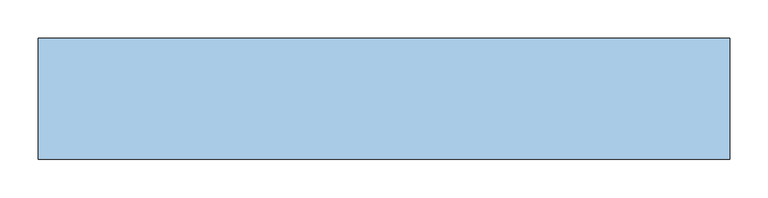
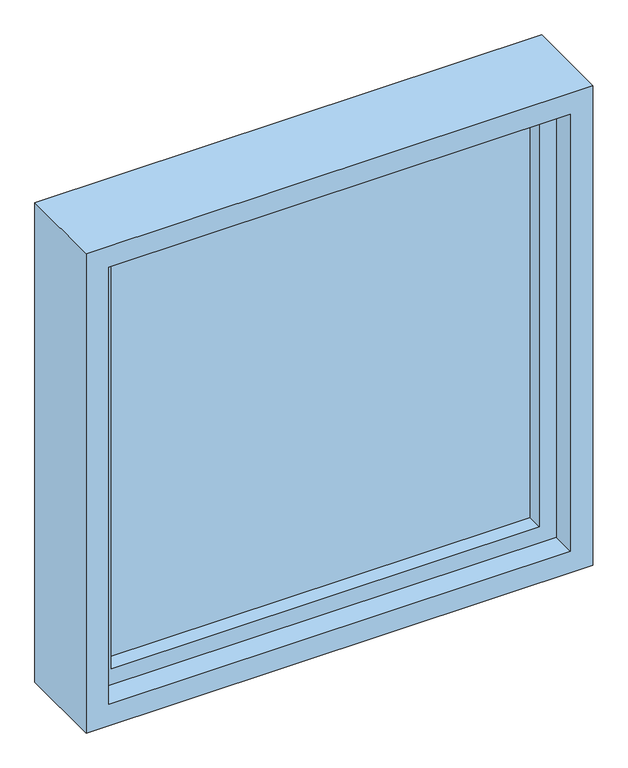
"""IFC4 building model written with IfcOpenShell, lengths in millimetres: window geometry, WD000-창 : WD000-창 900x900."""

from ifc_helpers import new_model, si_unit, frame, origin, place, context, project, spatial, polyline, outline, extrude, source, transform, mapped, element, save


def window_f2f41d25(model_context):
    return source(origin(), model_context, "Body", "SweptSolid", [
        extrude(outline(polyline([(380.0, -6.0), (-380.0, -6.0), (-380.0, 6.0), (380.0, 6.0), (380.0, -6.0)])), frame((0.0, 0.0, 870.0), z_axis=(0.0, 0.0, 1.0), x_axis=(1.0, 0.0, 0.0)), (0.0, 0.0, 1.0), 760.0),
        extrude(outline(polyline([(1660.0, 410.0), (1660.0, -410.0), (840.0, -410.0), (840.0, 410.0), (1660.0, 410.0)]), holes=[polyline([(1630.0, -380.0), (1630.0, 380.0), (870.0, 380.0), (870.0, -380.0), (1630.0, -380.0)])]), frame((0.0, -35.0, 0.0), z_axis=(0.0, 1.0, 0.0), x_axis=(0.0, 0.0, 1.0)), (0.0, 0.0, 1.0), 70.0),
        extrude(outline(polyline([(1700.0, 450.0), (1700.0, -450.0), (800.0, -450.0), (800.0, 450.0), (1700.0, 450.0)]), holes=[polyline([(1660.0, 410.0), (840.0, 410.0), (840.0, -410.0), (1660.0, -410.0), (1660.0, 410.0)])]), frame((0.0, -78.6430223, 0.0), z_axis=(0.0, 1.0, 0.0), x_axis=(0.0, 0.0, 1.0)), (0.0, 0.0, 1.0), 157.2860446),
    ])


if __name__ == "__main__":
    model = new_model("IFC4")
    model_context = context("Model", 3, world=origin())
    ifc_project = project(units=[si_unit("LENGTHUNIT", "METRE", prefix="MILLI")], contexts=[model_context])
    site = spatial("IfcSite", under=ifc_project)
    building = spatial("IfcBuilding", under=site)
    placement = place(None, origin())
    window_shape = window_f2f41d25(model_context)
    element("IfcWindow", 1, ObjectType="WD000-창 : WD000-창 900x900", at=placement, inside=building, context=model_context, shape_type="MappedRepresentation", body=[
        mapped(window_shape, transform((0.0, 0.0, 0.0), x_axis=(1.0, 0.0, 0.0), y_axis=(0.0, 1.0, 0.0), z_axis=(0.0, 0.0, 1.0))),
    ])
    save(model, "model.ifc")
